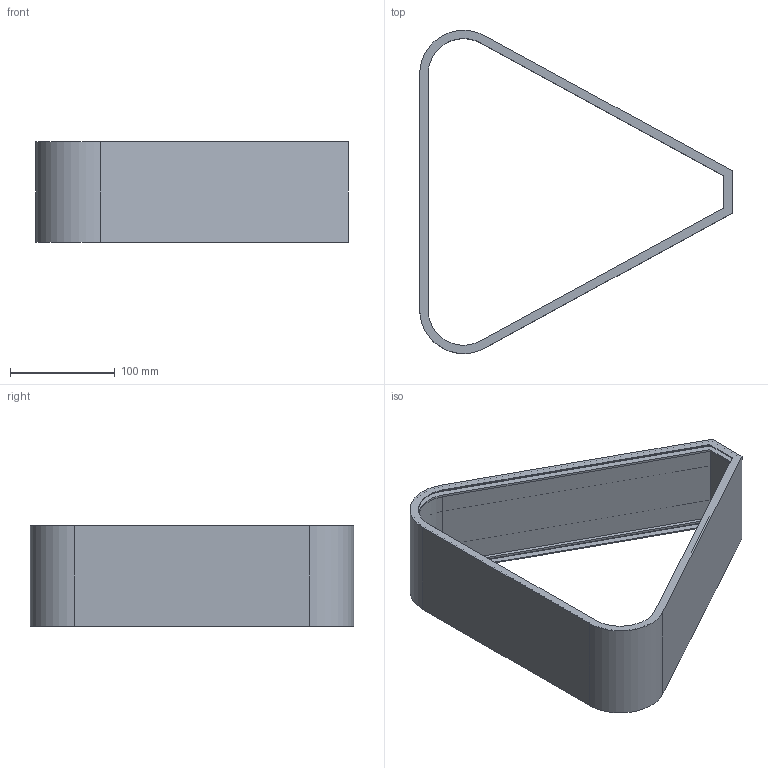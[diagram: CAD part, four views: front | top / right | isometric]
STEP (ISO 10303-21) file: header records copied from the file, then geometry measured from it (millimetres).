
FILE_DESCRIPTION(('STEP AP203'), '1');
FILE_NAME('rezonator all', '', ('UNSPECIFIED'), ('UNSPECIFIED'), 'ASCON STEP Converter 1.3', 'ASCON Math Kernel', '');
FILE_SCHEMA(('CONFIG_CONTROL_DESIGN'));
Length unit declared in the file: millimetre
Bounding box: 299 x 309.22 x 96 mm (x, y, z)
Volume: 352219.3 mm3; surface area: 308041.9 mm2
Topology: 1 solids, 2 shells, 78 faces, 214 edges, 142 vertices
Faces by surface type: plane 56, cylinder 22
Entity records: 3138 total; most frequent: CARTESIAN_POINT 441, ORIENTED_EDGE 428, DIRECTION 412, EDGE_CURVE 214, LINE 170, VECTOR 170, VERTEX_POINT 142, AXIS2_PLACEMENT_3D 121
